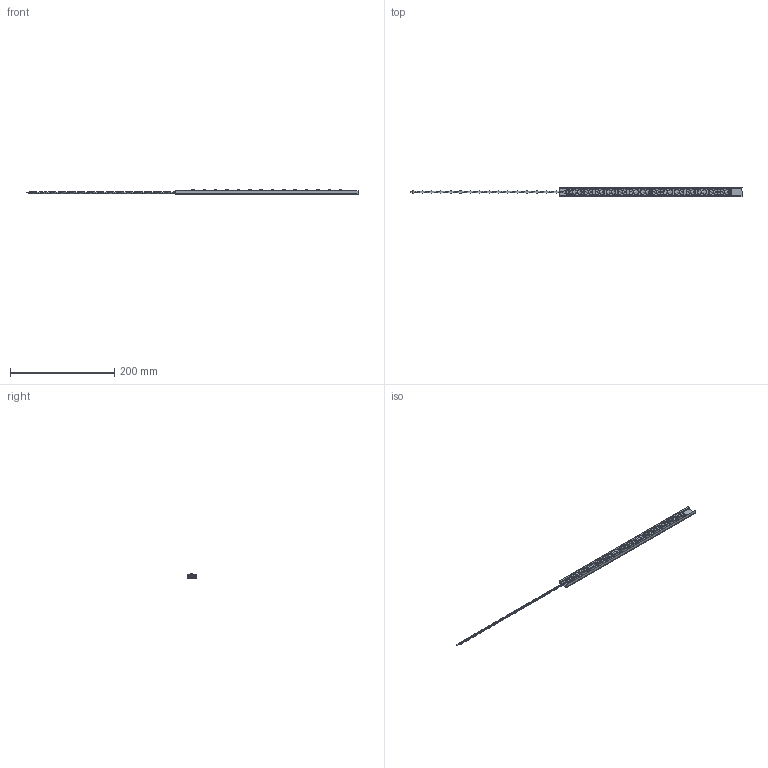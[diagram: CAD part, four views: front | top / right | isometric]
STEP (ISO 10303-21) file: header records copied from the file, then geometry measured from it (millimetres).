
FILE_DESCRIPTION (( 'STEP AP203' ), '1' );
FILE_NAME ('L09_1 ft_15X40.STEP', '2020-05-15T16:26:49', ( '' ), ( '' ), 'SwSTEP 2.0', 'SolidWorks 2017', '' );
FILE_SCHEMA (( 'CONFIG_CONTROL_DESIGN' ));
Length unit declared in the file: millimetre
Products named in the file (13): PCB-000101_102-00_PCB-000101-00; ACB-000214-00; ASY-006401-01; L09_1 ft_15X40; REF-000074-01; AVX-60-9159-3402-0X-000_60-9159-3402-0X-000; HSG-000250-00_349.8mm; OPC-000138-00; CON-000199-00; AVX-11-9159-002-101-916_11-9159-002-101-X16_With wires; AVX-60-9159-3302-0X-000_60-9159-3302-0X-000; CON-000198-00; CLP-000046-00
Assembly tree (23 placements, depth 3):
  L09_1 ft_15X40
    PCB-000101_102-00_PCB-000101-00  x2
    CLP-000046-00
    HSG-000250-00_349.8mm
    CON-000199-00  x2
    CON-000198-00  x3
    ASY-006401-01  x2
      REF-000074-01
      OPC-000138-00
    ACB-000214-00
      AVX-11-9159-002-101-916_11-9159-002-101-X16_With wires
      AVX-60-9159-3302-0X-000_60-9159-3302-0X-000
      AVX-60-9159-3402-0X-000_60-9159-3402-0X-000
Bounding box: 636.54 x 18.5 x 9.45 mm (x, y, z)
Volume: 33263.9 mm3; surface area: 56848.8 mm2
Topology: 29 solids, 33 shells, 2499 faces, 6980 edges, 4558 vertices
Faces by surface type: plane 1237, cylinder 666, bspline 571, cone 24, torus 1
Entity records: 117533 total; most frequent: CARTESIAN_POINT 88131, ORIENTED_EDGE 6258, DIRECTION 5136, EDGE_CURVE 3129, VERTEX_POINT 2075, VECTOR 1964, LINE 1964, AXIS2_PLACEMENT_3D 1586
